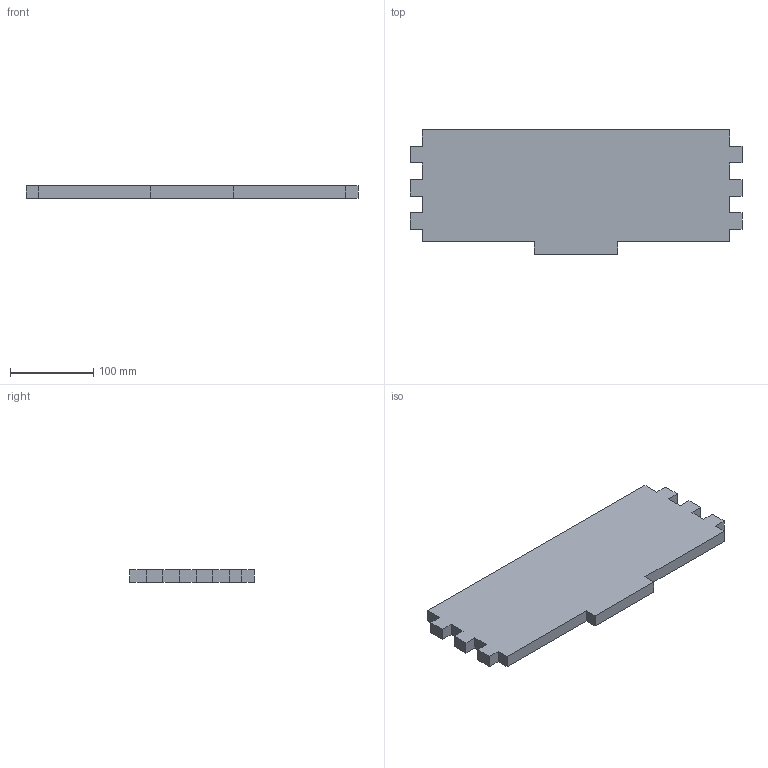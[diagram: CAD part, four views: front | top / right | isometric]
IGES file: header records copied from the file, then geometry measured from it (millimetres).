
Start section: SolidWorks IGES file using analytic representation for surfaces
Global section: file name: C:\Users\user\Documents\1_FabAcademy\week07\SolidW\iges\cajonfrontal.IGS; native system: SolidWorks 2016; preprocessor: SolidWorks 2016; author: user; date: 170308.170557; units: millimetre
Bounding box: 400 x 150 x 15 mm (x, y, z)
Surface area: 124800 mm2 (no closed solid volume)
Topology: 0 solids, 0 shells, 34 faces, 192 edges, 192 vertices
Faces by surface type: bspline 34
